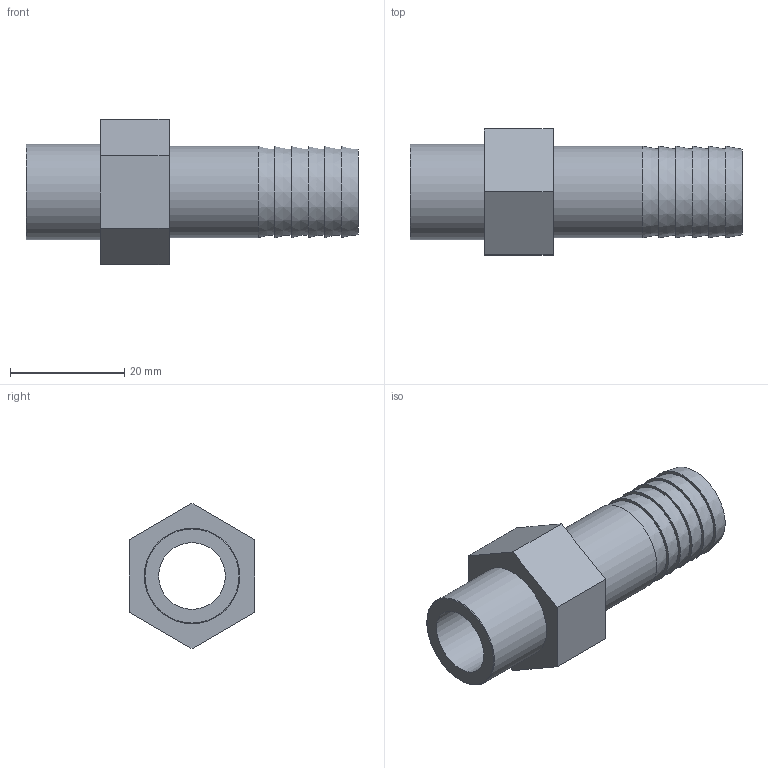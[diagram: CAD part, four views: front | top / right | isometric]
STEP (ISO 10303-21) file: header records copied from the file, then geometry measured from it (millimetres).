
FILE_DESCRIPTION(/* description */ ('PLASSON THREADED HOSE NOZZLE 3/8"-16'),/* implementation_level */ '2;1');
FILE_NAME(/* name */ 'C:\Dropbox\KIMPROJECTS-Inventor\99-16-3568-Processing\PVC Catalog 2017\053601\053601016003.ipt.stp',/* time_stamp */ '2017-12-07T16:03:19+02:00',/* author */ ('KIM'),/* organization */ (''),/* preprocessor_version */ 'ST-DEVELOPER v15.6',/* originating_system */ 'Autodesk Inventor 2015',/* authorisation */ '');
FILE_SCHEMA (('AUTOMOTIVE_DESIGN { 1 0 10303 214 3 1 1 }'));
Length unit declared in the file: millimetre
Products named in the file (1): 053601016003
Bounding box: 58 x 22 x 25.4 mm (x, y, z)
Volume: 8083.7 mm3; surface area: 6085.6 mm2
Topology: 1 solids, 1 shells, 25 faces, 46 edges, 30 vertices
Faces by surface type: plane 15, cone 6, cylinder 3, torus 1
Full cylindrical faces by diameter (mm): 11.663 x1, 16 x1, 16.662 x1
Entity records: 600 total; most frequent: DIRECTION 106, CARTESIAN_POINT 92, ORIENTED_EDGE 72, EDGE_LOOP 44, AXIS2_PLACEMENT_3D 44, EDGE_CURVE 36, VERTEX_POINT 30, FACE_OUTER_BOUND 25
